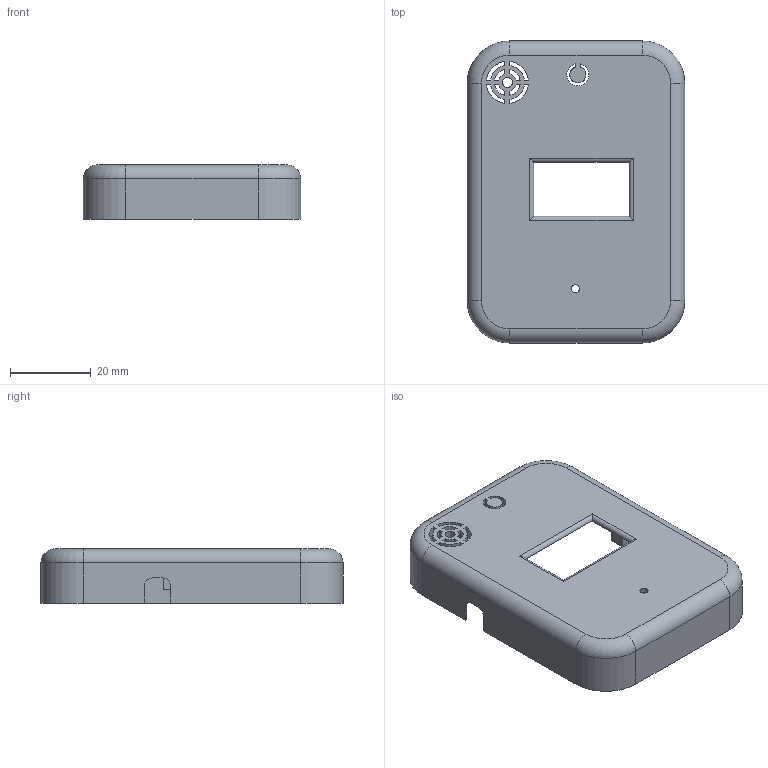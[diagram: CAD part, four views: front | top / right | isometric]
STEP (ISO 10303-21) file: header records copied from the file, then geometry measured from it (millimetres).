
FILE_DESCRIPTION(/* description */ (''),/* implementation_level */ '2;1');
FILE_NAME(/* name */ 'Top Cover.step',/* time_stamp */ '2026-06-06T10:55:07+05:30',/* author */ (''),/* organization */ (''),/* preprocessor_version */ 'ST-DEVELOPER v20.1',/* originating_system */ 'Autodesk Translation Framework v15.8.0.0',/* authorisation */ '');
FILE_SCHEMA (('AUTOMOTIVE_DESIGN { 1 0 10303 214 3 1 1 }'));
Length unit declared in the file: millimetre
Products named in the file (1): Top Cover
Bounding box: 54 x 75 x 13.5 mm (x, y, z)
Volume: 11553 mm3; surface area: 13728.8 mm2
Topology: 1 solids, 1 shells, 172 faces, 464 edges, 303 vertices
Faces by surface type: plane 100, cylinder 63, torus 8, sphere 1
Full cylindrical faces by diameter (mm): 2 x3, 2.05 x2, 2.5 x1, 4 x1, 19 x1, 20 x1, 20.2 x1
Entity records: 5499 total; most frequent: CARTESIAN_POINT 963, DIRECTION 941, ORIENTED_EDGE 928, EDGE_CURVE 464, LINE 327, VECTOR 327, AXIS2_PLACEMENT_3D 307, VERTEX_POINT 303
